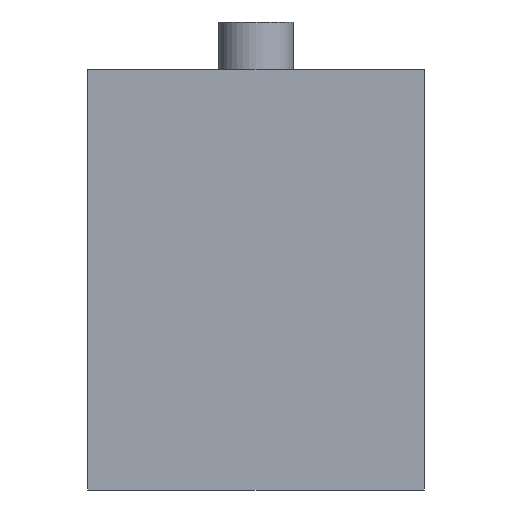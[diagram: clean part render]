
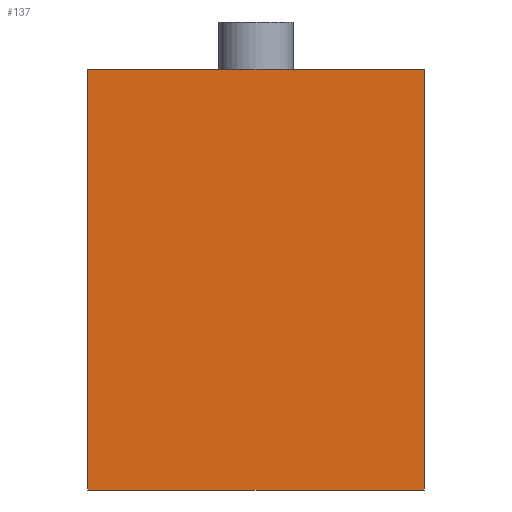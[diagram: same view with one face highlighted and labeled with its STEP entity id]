
A CAD part, front view. The second image highlights one B-rep face of the part: STEP entity #137.
In plain terms, the highlighted planar face has unit normal (0, -1, 0).
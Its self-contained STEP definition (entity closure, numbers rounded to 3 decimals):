
#21 = EDGE_CURVE('',#22,#24,#26,.T.);
#22 = VERTEX_POINT('',#23);
#23 = CARTESIAN_POINT('',(-40.,-19.95,-50.));
#24 = VERTEX_POINT('',#25);
#25 = CARTESIAN_POINT('',(-40.,-19.95,50.));
#26 = SURFACE_CURVE('',#27,(#31,#43),.PCURVE_S1.);
#27 = LINE('',#28,#29);
#28 = CARTESIAN_POINT('',(-40.,-19.95,-50.));
#29 = VECTOR('',#30,1.);
#30 = DIRECTION('',(0.,0.,1.));
#31 = PCURVE('',#32,#37);
#32 = PLANE('',#33);
#33 = AXIS2_PLACEMENT_3D('',#34,#35,#36);
#34 = CARTESIAN_POINT('',(-40.,-19.95,-50.));
#35 = DIRECTION('',(1.,0.,0.));
#36 = DIRECTION('',(0.,0.,1.));
#37 = DEFINITIONAL_REPRESENTATION('',(#38),#42);
#38 = LINE('',#39,#40);
#39 = CARTESIAN_POINT('',(0.,0.));
#40 = VECTOR('',#41,1.);
#41 = DIRECTION('',(1.,0.));
#42 = ( GEOMETRIC_REPRESENTATION_CONTEXT(2) 
PARAMETRIC_REPRESENTATION_CONTEXT() REPRESENTATION_CONTEXT('2D SPACE',''
  ) );
#43 = PCURVE('',#44,#49);
#44 = PLANE('',#45);
#45 = AXIS2_PLACEMENT_3D('',#46,#47,#48);
#46 = CARTESIAN_POINT('',(-40.,-19.95,-50.));
#47 = DIRECTION('',(0.,1.,0.));
#48 = DIRECTION('',(0.,0.,1.));
#49 = DEFINITIONAL_REPRESENTATION('',(#50),#54);
#50 = LINE('',#51,#52);
#51 = CARTESIAN_POINT('',(0.,0.));
#52 = VECTOR('',#53,1.);
#53 = DIRECTION('',(1.,0.));
#54 = ( GEOMETRIC_REPRESENTATION_CONTEXT(2) 
PARAMETRIC_REPRESENTATION_CONTEXT() REPRESENTATION_CONTEXT('2D SPACE',''
  ) );
#72 = PLANE('',#73);
#73 = AXIS2_PLACEMENT_3D('',#74,#75,#76);
#74 = CARTESIAN_POINT('',(-40.,-19.95,-50.));
#75 = DIRECTION('',(0.,0.,1.));
#76 = DIRECTION('',(1.,0.,0.));
#126 = PLANE('',#127);
#127 = AXIS2_PLACEMENT_3D('',#128,#129,#130);
#128 = CARTESIAN_POINT('',(-40.,-19.95,50.));
#129 = DIRECTION('',(0.,0.,1.));
#130 = DIRECTION('',(1.,0.,0.));
#137 = ADVANCED_FACE('',(#138),#44,.F.);
#138 = FACE_BOUND('',#139,.F.);
#139 = EDGE_LOOP('',(#140,#163,#164,#187));
#140 = ORIENTED_EDGE('',*,*,#141,.F.);
#141 = EDGE_CURVE('',#22,#142,#144,.T.);
#142 = VERTEX_POINT('',#143);
#143 = CARTESIAN_POINT('',(40.,-19.95,-50.));
#144 = SURFACE_CURVE('',#145,(#149,#156),.PCURVE_S1.);
#145 = LINE('',#146,#147);
#146 = CARTESIAN_POINT('',(-40.,-19.95,-50.));
#147 = VECTOR('',#148,1.);
#148 = DIRECTION('',(1.,0.,0.));
#149 = PCURVE('',#44,#150);
#150 = DEFINITIONAL_REPRESENTATION('',(#151),#155);
#151 = LINE('',#152,#153);
#152 = CARTESIAN_POINT('',(0.,0.));
#153 = VECTOR('',#154,1.);
#154 = DIRECTION('',(0.,1.));
#155 = ( GEOMETRIC_REPRESENTATION_CONTEXT(2) 
PARAMETRIC_REPRESENTATION_CONTEXT() REPRESENTATION_CONTEXT('2D SPACE',''
  ) );
#156 = PCURVE('',#72,#157);
#157 = DEFINITIONAL_REPRESENTATION('',(#158),#162);
#158 = LINE('',#159,#160);
#159 = CARTESIAN_POINT('',(0.,0.));
#160 = VECTOR('',#161,1.);
#161 = DIRECTION('',(1.,0.));
#162 = ( GEOMETRIC_REPRESENTATION_CONTEXT(2) 
PARAMETRIC_REPRESENTATION_CONTEXT() REPRESENTATION_CONTEXT('2D SPACE',''
  ) );
#163 = ORIENTED_EDGE('',*,*,#21,.T.);
#164 = ORIENTED_EDGE('',*,*,#165,.T.);
#165 = EDGE_CURVE('',#24,#166,#168,.T.);
#166 = VERTEX_POINT('',#167);
#167 = CARTESIAN_POINT('',(40.,-19.95,50.));
#168 = SURFACE_CURVE('',#169,(#173,#180),.PCURVE_S1.);
#169 = LINE('',#170,#171);
#170 = CARTESIAN_POINT('',(-40.,-19.95,50.));
#171 = VECTOR('',#172,1.);
#172 = DIRECTION('',(1.,0.,0.));
#173 = PCURVE('',#44,#174);
#174 = DEFINITIONAL_REPRESENTATION('',(#175),#179);
#175 = LINE('',#176,#177);
#176 = CARTESIAN_POINT('',(100.,0.));
#177 = VECTOR('',#178,1.);
#178 = DIRECTION('',(0.,1.));
#179 = ( GEOMETRIC_REPRESENTATION_CONTEXT(2) 
PARAMETRIC_REPRESENTATION_CONTEXT() REPRESENTATION_CONTEXT('2D SPACE',''
  ) );
#180 = PCURVE('',#126,#181);
#181 = DEFINITIONAL_REPRESENTATION('',(#182),#186);
#182 = LINE('',#183,#184);
#183 = CARTESIAN_POINT('',(0.,0.));
#184 = VECTOR('',#185,1.);
#185 = DIRECTION('',(1.,0.));
#186 = ( GEOMETRIC_REPRESENTATION_CONTEXT(2) 
PARAMETRIC_REPRESENTATION_CONTEXT() REPRESENTATION_CONTEXT('2D SPACE',''
  ) );
#187 = ORIENTED_EDGE('',*,*,#188,.F.);
#188 = EDGE_CURVE('',#142,#166,#189,.T.);
#189 = SURFACE_CURVE('',#190,(#194,#201),.PCURVE_S1.);
#190 = LINE('',#191,#192);
#191 = CARTESIAN_POINT('',(40.,-19.95,-50.));
#192 = VECTOR('',#193,1.);
#193 = DIRECTION('',(0.,0.,1.));
#194 = PCURVE('',#44,#195);
#195 = DEFINITIONAL_REPRESENTATION('',(#196),#200);
#196 = LINE('',#197,#198);
#197 = CARTESIAN_POINT('',(0.,80.));
#198 = VECTOR('',#199,1.);
#199 = DIRECTION('',(1.,0.));
#200 = ( GEOMETRIC_REPRESENTATION_CONTEXT(2) 
PARAMETRIC_REPRESENTATION_CONTEXT() REPRESENTATION_CONTEXT('2D SPACE',''
  ) );
#201 = PCURVE('',#202,#207);
#202 = PLANE('',#203);
#203 = AXIS2_PLACEMENT_3D('',#204,#205,#206);
#204 = CARTESIAN_POINT('',(40.,-19.95,-50.));
#205 = DIRECTION('',(1.,0.,0.));
#206 = DIRECTION('',(0.,0.,1.));
#207 = DEFINITIONAL_REPRESENTATION('',(#208),#212);
#208 = LINE('',#209,#210);
#209 = CARTESIAN_POINT('',(0.,0.));
#210 = VECTOR('',#211,1.);
#211 = DIRECTION('',(1.,0.));
#212 = ( GEOMETRIC_REPRESENTATION_CONTEXT(2) 
PARAMETRIC_REPRESENTATION_CONTEXT() REPRESENTATION_CONTEXT('2D SPACE',''
  ) );
